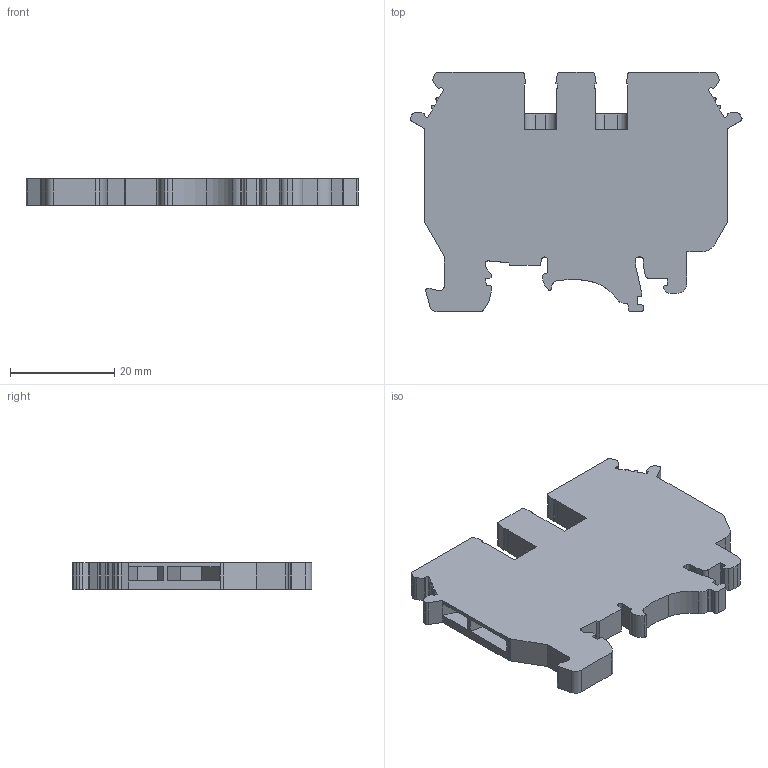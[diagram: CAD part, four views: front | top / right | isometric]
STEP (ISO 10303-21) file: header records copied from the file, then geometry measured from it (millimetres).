
FILE_DESCRIPTION(/* description */ (''),/* implementation_level */ '2;1');
FILE_NAME(/* name */ 'MTU-FO2.5.stp',/* time_stamp */ '2015-12-09T14:28:42+08:00',/* author */ (''),/* organization */ (''),/* preprocessor_version */ 'ST-DEVELOPER v11',/* originating_system */ 'SIEMENS UGS NX 6.0',/* authorisation */ '');
FILE_SCHEMA (('CONFIG_CONTROL_DESIGN'));
Length unit declared in the file: millimetre
Products named in the file (1): 2775375_udk3-select
Bounding box: 63.6 x 45.9 x 5.15 mm (x, y, z)
Volume: 10361.3 mm3; surface area: 6562.6 mm2
Topology: 1 solids, 1 shells, 213 faces, 611 edges, 406 vertices
Faces by surface type: plane 133, cylinder 80
Entity records: 7059 total; most frequent: CARTESIAN_POINT 1231, ORIENTED_EDGE 1222, DIRECTION 1199, EDGE_CURVE 611, LINE 451, VECTOR 451, VERTEX_POINT 406, AXIS2_PLACEMENT_3D 374
